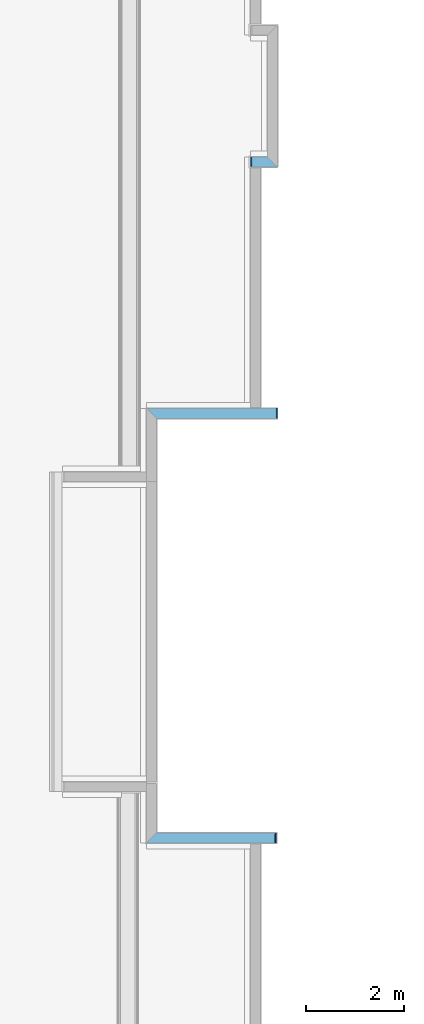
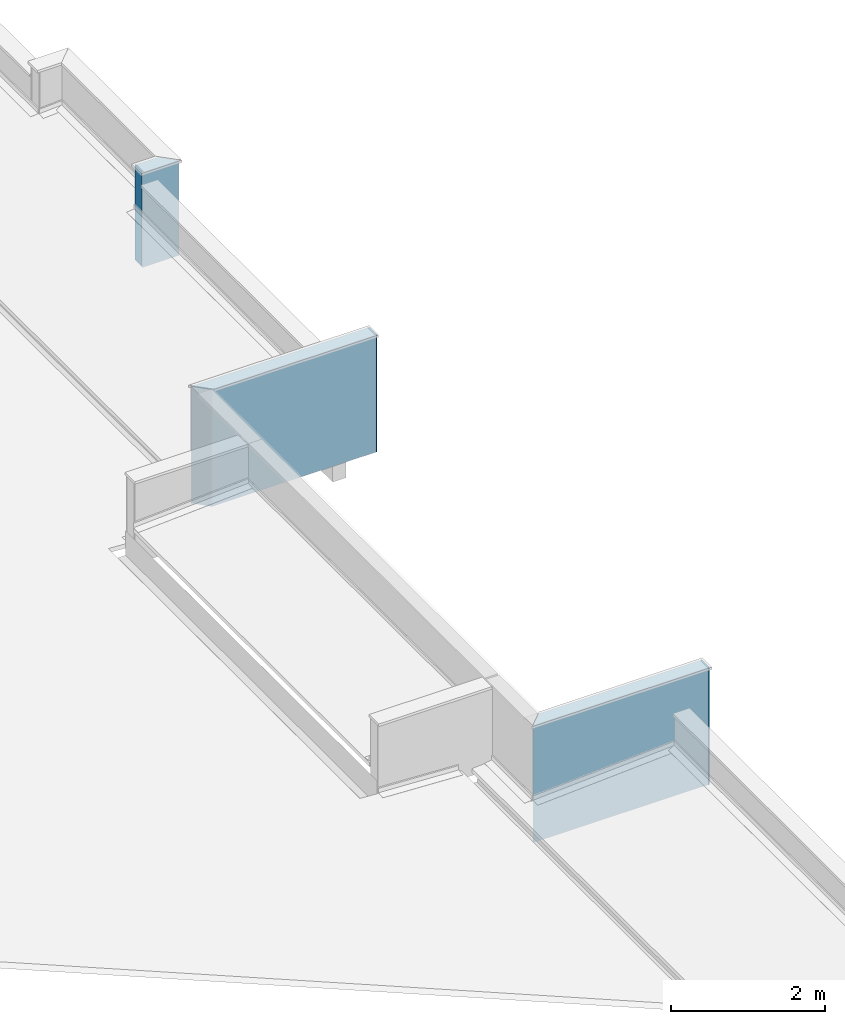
# One storey, part 18 of 25: 3 walls, 3 openings, plus 3 elements that do not belong to this part.
"""IFC4 building model written with IfcOpenShell, lengths in metres."""

import ifcopenshell
import ifcopenshell.guid

model = None  # the IFC model being written
_history = None  # IfcOwnerHistory: only IFC2X3 demands one
_inside = {}  # id of a spatial element -> (the spatial element, [elements in it])
_under = {}  # id of a project, library or spatial element -> (it, [spatial elements below it])
_declared = {}  # id of a project -> (the project, [libraries it declares])
_typed = {}  # id of a type object -> (the type object, [elements of that type])
_made_of = {}  # id of a material, layer set ... -> (it, [elements and type objects made of it])


def new_model(schema):
    """Start an empty IFC model of exactly this schema.

    Asked for "IFC4X3", IfcOpenShell would pick the latest addendum, in which some entities
    have other attributes; the version numbers below select the first issue.
    IFC2X3 requires an IfcOwnerHistory on every rooted entity: one is made here for all.
    """
    global model, _history
    if schema == "IFC4X3":
        model = ifcopenshell.file(schema_version=(4, 3, 0, 0))
    else:
        model = ifcopenshell.file(schema=schema)
    _inside.clear()
    _under.clear()
    _declared.clear()
    _typed.clear()
    _made_of.clear()
    _history = None
    if model.schema == "IFC2X3":
        org = make("IfcOrganization", Name="unknown")
        user = make(
            "IfcPersonAndOrganization",
            ThePerson=make("IfcPerson", FamilyName="unknown"),
            TheOrganization=org,
        )
        app = make(
            "IfcApplication",
            ApplicationDeveloper=org,
            Version="unknown",
            ApplicationFullName="unknown",
            ApplicationIdentifier="unknown",
        )
        _history = make(
            "IfcOwnerHistory",
            OwningUser=user,
            OwningApplication=app,
            ChangeAction="ADDED",
            CreationDate=0,
        )
    return model


def make(cls, **values):
    """One entity of the class cls with the attributes given. An attribute that is None is left unset."""
    return model.create_entity(
        cls, **{name: value for name, value in values.items() if value is not None}
    )


def entity(cls, *values):
    """Any entity or typed value of the class cls, its attributes in the order of the schema. None: left unset."""
    e = model.create_entity(cls)
    for i, value in enumerate(values):
        if value is not None:
            e[i] = value
    return e


def rooted(cls, **values):
    """An entity with a GlobalId (a new one), such as an element, a storey or a relation."""
    return make(cls, GlobalId=ifcopenshell.guid.new(), OwnerHistory=_history, **values)


def si_unit(unit_type, name, prefix=None):
    """IfcSIUnit, for example si_unit("LENGTHUNIT", "METRE", prefix="MILLI")."""
    return make("IfcSIUnit", UnitType=unit_type, Prefix=prefix, Name=name)


def converted_unit(unit_type, name, factor, base, dimensions=None, offset=None):
    """IfcConversionBasedUnit, such as the inch: factor (a typed value) times the base unit."""
    return make(
        "IfcConversionBasedUnit"
        if offset is None
        else "IfcConversionBasedUnitWithOffset",
        ConversionOffset=offset,
        Dimensions=None
        if dimensions is None
        else entity("IfcDimensionalExponents", *dimensions),
        UnitType=unit_type,
        Name=name,
        ConversionFactor=make(
            "IfcMeasureWithUnit", ValueComponent=factor, UnitComponent=base
        ),
    )


def derived_unit(unit_type, elements):
    """IfcDerivedUnit: a product of units, each with its exponent."""
    return make(
        "IfcDerivedUnit",
        Elements=[
            make("IfcDerivedUnitElement", Unit=unit, Exponent=power)
            for unit, power in elements
        ],
        UnitType=unit_type,
    )


def assignment(units):
    """IfcUnitAssignment: the units of a project."""
    return None if units is None else make("IfcUnitAssignment", Units=units)


def point(xyz):
    """IfcCartesianPoint."""
    return None if xyz is None else make("IfcCartesianPoint", Coordinates=xyz)


def direction(xyz):
    """IfcDirection."""
    return None if xyz is None else make("IfcDirection", DirectionRatios=xyz)


def frame(location, z_axis=None, x_axis=None):
    """IfcAxis2Placement3D, a coordinate frame: its origin and axes. An axis left out is left unset."""
    return make(
        "IfcAxis2Placement3D",
        Location=point(location),
        Axis=direction(z_axis),
        RefDirection=direction(x_axis),
    )


def frame_2d(location, x_axis=None):
    """IfcAxis2Placement2D, a coordinate frame in the plane: its origin and x axis."""
    return make(
        "IfcAxis2Placement2D", Location=point(location), RefDirection=direction(x_axis)
    )


def origin_with_axes():
    """The frame at (0, 0, 0) with the z axis (0, 0, 1) and the x axis (1, 0, 0) written out."""
    return frame((0.0, 0.0, 0.0), z_axis=(0.0, 0.0, 1.0), x_axis=(1.0, 0.0, 0.0))


def origin_2d_with_axis():
    """The frame at (0, 0) in the plane with the x axis (1, 0) written out."""
    return frame_2d((0.0, 0.0), x_axis=(1.0, 0.0))


def place(relative_to, where):
    """IfcLocalPlacement: puts the frame where relative to a parent placement (None: the world)."""
    return make(
        "IfcLocalPlacement", PlacementRelTo=relative_to, RelativePlacement=where
    )


def context(
    kind, dimensions, precision=None, world=None, true_north=None, identifier=None
):
    """IfcGeometricRepresentationContext, for example the 3D "Model" context."""
    return make(
        "IfcGeometricRepresentationContext",
        ContextIdentifier=identifier,
        ContextType=kind,
        CoordinateSpaceDimension=dimensions,
        Precision=precision,
        WorldCoordinateSystem=world,
        TrueNorth=true_north,
    )


def subcontext(parent, identifier, kind, view, scale=None):
    """IfcGeometricRepresentationSubContext, for example "Body" below "Model"."""
    return make(
        "IfcGeometricRepresentationSubContext",
        ContextIdentifier=identifier,
        ContextType=kind,
        ParentContext=parent,
        TargetScale=scale,
        TargetView=view,
    )


def project(units=None, contexts=None):
    """IfcProject with its units and contexts."""
    return rooted(
        "IfcProject",
        Name="project",
        RepresentationContexts=contexts,
        UnitsInContext=assignment(units),
    )


def spatial(cls, under=None, at=None, **own):
    """A site, building, storey or space (cls), placed at a placement, below another one or the project."""
    s = rooted(cls, ObjectPlacement=at, **own)
    if under is not None:
        _under.setdefault(under.id(), (under, []))[1].append(s)
    return s


def point_list(points):
    """IfcCartesianPointList2D or 3D."""
    cls = (
        "IfcCartesianPointList2D" if len(points[0]) == 2 else "IfcCartesianPointList3D"
    )
    return make(cls, CoordList=points)


def line(*indices):
    """IfcLineIndex: a straight run through numbered points of an indexed curve."""
    return model.create_entity("IfcLineIndex", indices)


def indexed_curve(points, segments=None, self_intersect=None):
    """IfcIndexedPolyCurve: lines and arcs through numbered points (the first is 1)."""
    return make(
        "IfcIndexedPolyCurve",
        Points=point_list(points),
        Segments=segments,
        SelfIntersect=self_intersect,
    )


def profile(cls, at=None, kind="AREA", **sizes):
    """A parametric profile (cls). Its sizes go by their IFC names, for example OverallWidth=200.0."""
    return make(cls, ProfileType=kind, Position=at, **sizes)


def rectangle(**sizes):
    """IfcRectangleProfileDef."""
    return profile("IfcRectangleProfileDef", **sizes)


def outline(outer, holes=None, kind="AREA"):
    """IfcArbitraryClosedProfileDef: a profile drawn as a closed curve; with holes, ...WithVoids."""
    if holes is None:
        return make("IfcArbitraryClosedProfileDef", ProfileType=kind, OuterCurve=outer)
    return make(
        "IfcArbitraryProfileDefWithVoids",
        ProfileType=kind,
        OuterCurve=outer,
        InnerCurves=holes,
    )


def extrude(swept, where, along, depth):
    """IfcExtrudedAreaSolid: the profile swept, set in the frame where, extruded along a direction by depth."""
    return make(
        "IfcExtrudedAreaSolid",
        SweptArea=swept,
        Position=where,
        ExtrudedDirection=direction(along),
        Depth=depth,
    )


def polygons(points, faces, closed=None, point_numbers=None):
    """IfcPolygonalFaceSet: a face is its outer loop, then its inner loops; points numbered from 1."""
    made = []
    for loops in faces:
        if len(loops) == 1:
            made.append(make("IfcIndexedPolygonalFace", CoordIndex=loops[0]))
        else:
            made.append(
                make(
                    "IfcIndexedPolygonalFaceWithVoids",
                    CoordIndex=loops[0],
                    InnerCoordIndices=loops[1:],
                )
            )
    return make(
        "IfcPolygonalFaceSet",
        Coordinates=point_list(points),
        Closed=closed,
        Faces=made,
        PnIndex=point_numbers,
    )


def shape(context_of_items, identifier, shape_type, items):
    """IfcShapeRepresentation: the items that make up one representation, for example the "Body"."""
    return make(
        "IfcShapeRepresentation",
        ContextOfItems=context_of_items,
        RepresentationIdentifier=identifier,
        RepresentationType=shape_type,
        Items=items,
    )


def material(Name=None, Category=None):
    """IfcMaterial."""
    return make("IfcMaterial", Name=Name, Category=Category)


def layer(
    of_material, thickness, ventilated=None, Name=None, Category=None, Priority=None
):
    """IfcMaterialLayer: one layer of a wall or slab, of a material (None: an air gap)."""
    return make(
        "IfcMaterialLayer",
        Material=of_material,
        LayerThickness=thickness,
        IsVentilated=ventilated,
        Name=Name,
        Category=Category,
        Priority=Priority,
    )


def layer_set(layers, Name=None):
    """IfcMaterialLayerSet."""
    return make("IfcMaterialLayerSet", MaterialLayers=layers, LayerSetName=Name)


def layer_usage(for_layer_set, set_direction, sense, offset, extent=None):
    """IfcMaterialLayerSetUsage: how a layer set lies in its element."""
    return make(
        "IfcMaterialLayerSetUsage",
        ForLayerSet=for_layer_set,
        LayerSetDirection=set_direction,
        DirectionSense=sense,
        OffsetFromReferenceLine=offset,
        ReferenceExtent=extent,
    )


def constituent(of_material, Name=None, Category=None, fraction=None):
    """IfcMaterialConstituent: one of the materials an element consists of."""
    return make(
        "IfcMaterialConstituent",
        Name=Name,
        Material=of_material,
        Fraction=fraction,
        Category=Category,
    )


def constituent_set(constituents=None, Name=None):
    """IfcMaterialConstituentSet."""
    return make(
        "IfcMaterialConstituentSet", Name=Name, MaterialConstituents=constituents
    )


def made_of(thing, what):
    """Note that an element or type object is made of a material, layer set ...; save() writes the relation."""
    if what is not None:
        _made_of.setdefault(what.id(), (what, []))[1].append(thing)
    return thing


def type_object(cls, material=None, **own):
    """A type object (cls), such as IfcWallType, which elements share."""
    return made_of(rooted(cls, **own), material)


def element(
    cls,
    number,
    at=None,
    inside=None,
    cuts=None,
    type_object=None,
    material=None,
    context=None,
    identifier="Body",
    shape_type=None,
    held_by="IfcProductDefinitionShape",
    body=None,
    shapes=None,
    **own,
):
    """One element of the class cls, such as IfcWall. Its Tag is "e" and its number.

    at: its placement. inside: the storey or other place that contains it. cuts: it is an
    opening in that element (IfcRelVoidsElement). A single representation is given by context,
    identifier, shape_type and body (its items); several are given by shapes. held_by: the class
    of the entity that holds the representations. save() writes the other relations.
    """
    e = rooted(cls, Tag="e%d" % number, ObjectPlacement=at, **own)
    if body is not None:
        shapes = [shape(context, identifier, shape_type, body)]
    if shapes is not None:
        e.Representation = make(held_by, Representations=shapes)
    if inside is not None:
        _inside.setdefault(inside.id(), (inside, []))[1].append(e)
    if cuts is not None:
        rooted(
            "IfcRelVoidsElement", RelatingBuildingElement=cuts, RelatedOpeningElement=e
        )
    if type_object is not None:
        _typed.setdefault(type_object.id(), (type_object, []))[1].append(e)
    return made_of(e, material)


def fill(opening, filler):
    """IfcRelFillsElement: the door or window that sits in an opening."""
    return rooted(
        "IfcRelFillsElement",
        RelatingOpeningElement=opening,
        RelatedBuildingElement=filler,
    )


def aggregate(whole, parts):
    """IfcRelAggregates: a whole, such as a stair, and the parts it consists of."""
    return rooted("IfcRelAggregates", RelatingObject=whole, RelatedObjects=parts)


def save(model, path):
    """Write the relations noted so far, then the file.

    IfcRelAggregates (storeys below a building ...), IfcRelContainedInSpatialStructure (elements
    in a storey), IfcRelDefinesByType, IfcRelAssociatesMaterial and IfcRelDeclares: one each for
    every whole, place, type object, material and project.
    """
    for whole, parts in _under.values():
        aggregate(whole, parts)
    for where, things in _inside.values():
        rooted(
            "IfcRelContainedInSpatialStructure",
            RelatedElements=things,
            RelatingStructure=where,
        )
    for kind, things in _typed.values():
        rooted("IfcRelDefinesByType", RelatedObjects=things, RelatingType=kind)
    for what, things in _made_of.values():
        rooted("IfcRelAssociatesMaterial", RelatedObjects=things, RelatingMaterial=what)
    for by, libraries in _declared.values():
        rooted("IfcRelDeclares", RelatingContext=by, RelatedDefinitions=libraries)
    model.write(path)


model = new_model("IFC4")

# Units and contexts
model_context = context("Model", 3, precision=1e-05, world=origin_with_axes(), true_north=direction((0.0, 1.0)))
body_context = subcontext(model_context, "Body", "Model", "MODEL_VIEW")
ifc_project = project(units=[si_unit("LENGTHUNIT", "METRE"), si_unit("AREAUNIT", "SQUARE_METRE"), si_unit("VOLUMEUNIT", "CUBIC_METRE"), converted_unit("PLANEANGLEUNIT", "DEGREE", entity("IfcPlaneAngleMeasure", 0.0174532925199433), si_unit("PLANEANGLEUNIT", "RADIAN"), dimensions=[0, 0, 0, 0, 0, 0, 0]), converted_unit("TIMEUNIT", "Year", entity("IfcTimeMeasure", 31557600.0), si_unit("TIMEUNIT", "SECOND"), dimensions=[0, 0, 1, 0, 0, 0, 0]), si_unit("MASSUNIT", "GRAM", prefix="KILO"), si_unit("THERMODYNAMICTEMPERATUREUNIT", "DEGREE_CELSIUS"), si_unit("LUMINOUSINTENSITYUNIT", "LUMEN"), si_unit("ENERGYUNIT", "JOULE", prefix="MEGA"), derived_unit("THERMALCONDUCTANCEUNIT", [(si_unit("POWERUNIT", "WATT"), 1), (si_unit("LENGTHUNIT", "METRE"), -1), (si_unit("THERMODYNAMICTEMPERATUREUNIT", "KELVIN"), -1)]), derived_unit("SPECIFICHEATCAPACITYUNIT", [(si_unit("ENERGYUNIT", "JOULE"), 1), (si_unit("MASSUNIT", "GRAM", prefix="KILO"), -1), (si_unit("THERMODYNAMICTEMPERATUREUNIT", "KELVIN"), -1)]), derived_unit("MASSDENSITYUNIT", [(si_unit("MASSUNIT", "GRAM", prefix="KILO"), 1), (si_unit("VOLUMEUNIT", "CUBIC_METRE"), -1)])], contexts=[model_context])

# Site, building, storey
site_placement = place(None, origin_with_axes())
site = spatial("IfcSite", under=ifc_project, at=site_placement, Name="PADRÃO", CompositionType="ELEMENT")
building_placement = place(site_placement, origin_with_axes())
building = spatial("IfcBuilding", under=site, at=building_placement, Name="CRECHE PRÉ-ESCOLA TIPO 2", CompositionType="ELEMENT")
storey_placement = place(building_placement, frame((0.0, 0.0, 3.26), z_axis=(0.0, 0.0, 1.0), x_axis=(1.0, 0.0, 0.0)))
storey = spatial("IfcBuildingStorey", under=building, at=storey_placement, Name="COBERTURA", CompositionType="ELEMENT", Elevation=3.26)

# Walls, opening
ifc_material_1 = material(Name="EI-REV-Pintura Acrílica Cor Cinza")
ifc_layer_1 = layer(ifc_material_1, 0.015, ventilated="UNKNOWN", Name="EI-REV-Pintura Acrílica Cor Cinza 1")
ifc_material_2 = material(Name="EI-REV-Massa Acrílica (externa)")
ifc_layer_2 = layer(ifc_material_2, 0.005, ventilated="UNKNOWN", Name="EI-REV-Massa Acrílica (externa) 1")
ifc_material_3 = material(Name="EI-REV-Massa única - Fachada")
ifc_layer_3 = layer(ifc_material_3, 0.005, ventilated="UNKNOWN", Name="EI-REV-Massa única - Fachada 1")
ifc_material_4 = material(Name="EI-REV-Chapisco (externo)")
ifc_layer_4 = layer(ifc_material_4, 0.005, ventilated="UNKNOWN", Name="EI-REV-Chapisco (externo) 1")
ifc_material_5 = material(Name="TIJOLO - CERAMICO 14x19x39 - espessura 20cm")
ifc_layer_5 = layer(ifc_material_5, 0.14, ventilated="UNKNOWN", Name="TIJOLO - CERAMICO 14x19x39 - espessura 20cm")
ifc_layer_6 = layer(ifc_material_4, 0.005, ventilated="UNKNOWN", Name="EI-REV-Chapisco (externo) 2")
ifc_layer_7 = layer(ifc_material_3, 0.005, ventilated="UNKNOWN", Name="EI-REV-Massa única - Fachada 2")
ifc_layer_8 = layer(ifc_material_2, 0.005, ventilated="UNKNOWN", Name="EI-REV-Massa Acrílica (externa) 2")
ifc_layer_9 = layer(ifc_material_1, 0.015, ventilated="UNKNOWN", Name="EI-REV-Pintura Acrílica Cor Cinza 2")
ifc_layer_set_1 = layer_set([ifc_layer_1, ifc_layer_2, ifc_layer_3, ifc_layer_4, ifc_layer_5, ifc_layer_6, ifc_layer_7, ifc_layer_8, ifc_layer_9], Name="FNDE-PLAT_AL14-Pintura cinza")
ifc_layer_usage_1 = layer_usage(ifc_layer_set_1, "AXIS2", "POSITIVE", -0.1)
wall_type_1 = type_object("IfcWallType", Name="FNDE-PLAT_AL14-Pintura cinza 200", PredefinedType="NOTDEFINED")
wall_1_placement = place(storey_placement, frame((-5.91504280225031, 18.1501547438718, 0.0), z_axis=(0.0, 0.0, 1.0), x_axis=(-1.0, 0.0, 0.0)))
wall_1 = element("IfcWall", 1, at=wall_1_placement, inside=storey, type_object=wall_type_1, material=ifc_layer_usage_1, Name="AL14", PredefinedType="NOTDEFINED", context=body_context, shape_type="SweptSolid", body=[
    extrude(outline(indexed_curve([(0.0, -0.100000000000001), (2.45500895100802, -0.100000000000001), (2.65500895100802, 0.0999999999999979), (0.0, 0.0999999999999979)], segments=[line(1, 2, 3, 4, 1)])), origin_with_axes(), (0.0, 0.0, 1.0), 1.86),
])
opening_1_placement = place(wall_1_placement, origin_with_axes())
opening_1 = element("IfcOpeningElement", 2, at=opening_1_placement, cuts=wall_1, Name="AL14", context=body_context, shape_type="SweptSolid", body=[
    extrude(rectangle(XDim=0.199999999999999, YDim=0.0150000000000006, at=origin_2d_with_axis()), frame((0.00750000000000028, 0.0, 0.0), z_axis=(0.0, 0.0, 1.0), x_axis=(0.0, 1.0, 0.0)), (0.0, 0.0, 1.0), 1.86),
    extrude(rectangle(XDim=0.184999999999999, YDim=0.00500000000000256, at=origin_2d_with_axis()), frame((0.0174999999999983, 0.00749999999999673, 0.0), z_axis=(0.0, 0.0, 1.0), x_axis=(0.0, 1.0, 0.0)), (0.0, 0.0, 1.0), 1.86),
    extrude(rectangle(XDim=0.18, YDim=0.00499999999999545, at=origin_2d_with_axis()), frame((0.0225000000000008, 0.00999999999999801, 0.0), z_axis=(0.0, 0.0, 1.0), x_axis=(0.0, 1.0, 0.0)), (0.0, 0.0, 1.0), 1.86),
])
ifc_constituent_1 = constituent(ifc_material_1, Name="EI-REV-Pintura Acrílica Cor Cinza")
ifc_constituent_2 = constituent(ifc_material_2, Name="EI-REV-Massa Acrílica (externa)")
ifc_constituent_3 = constituent(ifc_material_3, Name="EI-REV-Massa única - Fachada")
ifc_constituent_set_1 = constituent_set(constituents=[ifc_constituent_1, ifc_constituent_2, ifc_constituent_3])
wall_type_2 = type_object("IfcWallType", Name="Arremate com Dobra Revest 27", PredefinedType="NOTDEFINED")
wall_2_placement = place(opening_1_placement, frame((-0.0125000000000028, 0.0, 0.0), z_axis=(0.0, 0.0, 1.0), x_axis=(1.0, 0.0, 0.0)))
wall_2 = element("IfcWall", 3, at=wall_2_placement, inside=storey, type_object=wall_type_2, material=ifc_constituent_set_1, Name="AL14", PredefinedType="NOTDEFINED", context=body_context, shape_type="Tessellation", body=[
    polygons([(0.0125000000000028, -0.100000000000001, 0.0), (0.0275000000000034, -0.100000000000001, 0.0), (0.0275000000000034, -0.100000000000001, 1.86), (0.0125000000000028, -0.100000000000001, 1.86), (0.0125000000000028, 0.0999999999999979, 0.0), (0.0275000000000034, 0.0999999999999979, 0.0), (0.0275000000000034, 0.0999999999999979, 1.86), (0.0125000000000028, 0.0999999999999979, 1.86)], [[[1, 2, 3, 4]], [[5, 6, 2, 1]], [[6, 7, 3, 2]], [[7, 8, 4, 3]], [[8, 5, 1, 4]], [[5, 8, 7, 6]]], closed=True),
    polygons([(0.0275000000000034, -0.0850000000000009, 0.0), (0.032500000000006, -0.0850000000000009, 0.0), (0.032500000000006, -0.0850000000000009, 1.86), (0.0275000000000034, -0.0850000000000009, 1.86), (0.0275000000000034, 0.0999999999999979, 0.0), (0.032500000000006, 0.0999999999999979, 0.0), (0.032500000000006, 0.0999999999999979, 1.86), (0.0275000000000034, 0.0999999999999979, 1.86)], [[[1, 2, 3, 4]], [[5, 6, 2, 1]], [[6, 7, 3, 2]], [[7, 8, 4, 3]], [[8, 5, 1, 4]], [[5, 8, 7, 6]]], closed=True),
    polygons([(0.032500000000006, -0.0800000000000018, 0.0), (0.0375000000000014, -0.0800000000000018, 0.0), (0.0375000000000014, -0.0800000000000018, 1.86), (0.032500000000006, -0.0800000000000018, 1.86), (0.032500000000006, 0.0999999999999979, 0.0), (0.0375000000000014, 0.0999999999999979, 0.0), (0.0375000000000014, 0.0999999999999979, 1.86), (0.032500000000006, 0.0999999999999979, 1.86)], [[[1, 2, 3, 4]], [[5, 6, 2, 1]], [[6, 7, 3, 2]], [[7, 8, 4, 3]], [[8, 5, 1, 4]], [[5, 8, 7, 6]]], closed=True),
])
fill(opening_1, wall_2)

ifc_layer_usage_2 = layer_usage(ifc_layer_set_1, "AXIS2", "POSITIVE", -0.1)
wall_3_placement = place(storey_placement, frame((-5.89001783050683, 26.8501567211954, 0.0), z_axis=(0.0, 0.0, 1.0), x_axis=(-1.0, 0.0, 0.0)))
wall_3 = element("IfcWall", 4, at=wall_3_placement, inside=storey, type_object=wall_type_1, material=ifc_layer_usage_2, Name="AL14", PredefinedType="NOTDEFINED", context=body_context, shape_type="SweptSolid", body=[
    extrude(outline(indexed_curve([(0.0, -0.100000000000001), (2.6800339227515, -0.100000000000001), (2.48003392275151, 0.0999999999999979), (0.0, 0.0999999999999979)], segments=[line(1, 2, 3, 4, 1)])), origin_with_axes(), (0.0, 0.0, 1.0), 1.86),
])
opening_2_placement = place(wall_3_placement, origin_with_axes())
opening_2 = element("IfcOpeningElement", 5, at=opening_2_placement, cuts=wall_3, Name="AL14", context=body_context, shape_type="SweptSolid", body=[
    extrude(rectangle(XDim=0.199999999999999, YDim=0.0150000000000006, at=origin_2d_with_axis()), frame((0.00750000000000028, 0.0, 0.0), z_axis=(0.0, 0.0, 1.0), x_axis=(0.0, 1.0, 0.0)), (0.0, 0.0, 1.0), 1.86),
    extrude(rectangle(XDim=0.184999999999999, YDim=0.00500000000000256, at=origin_2d_with_axis()), frame((0.0175000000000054, -0.00750000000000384, 0.0), z_axis=(0.0, 0.0, 1.0), x_axis=(0.0, 1.0, 0.0)), (0.0, 0.0, 1.0), 1.86),
    extrude(rectangle(XDim=0.18, YDim=0.00499999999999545, at=origin_2d_with_axis()), frame((0.0225000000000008, -0.0100000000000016, 0.0), z_axis=(0.0, 0.0, 1.0), x_axis=(0.0, 1.0, 0.0)), (0.0, 0.0, 1.0), 1.86),
])
ifc_constituent_4 = constituent(ifc_material_1, Name="EI-REV-Pintura Acrílica Cor Cinza")
ifc_constituent_5 = constituent(ifc_material_2, Name="EI-REV-Massa Acrílica (externa)")
ifc_constituent_6 = constituent(ifc_material_3, Name="EI-REV-Massa única - Fachada")
ifc_constituent_set_2 = constituent_set(constituents=[ifc_constituent_4, ifc_constituent_5, ifc_constituent_6])
wall_4_placement = place(opening_2_placement, frame((-0.0125000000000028, 0.0, 0.0), z_axis=(0.0, 0.0, 1.0), x_axis=(1.0, 0.0, 0.0)))
wall_4 = element("IfcWall", 6, at=wall_4_placement, inside=storey, type_object=wall_type_2, material=ifc_constituent_set_2, Name="AL14", PredefinedType="NOTDEFINED", context=body_context, shape_type="Tessellation", body=[
    polygons([(0.0125000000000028, -0.100000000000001, 0.0), (0.0275000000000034, -0.100000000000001, 0.0), (0.0275000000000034, -0.100000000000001, 1.86), (0.0125000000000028, -0.100000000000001, 1.86), (0.0125000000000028, 0.0999999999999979, 0.0), (0.0275000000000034, 0.0999999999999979, 0.0), (0.0275000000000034, 0.0999999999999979, 1.86), (0.0125000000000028, 0.0999999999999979, 1.86)], [[[1, 2, 3, 4]], [[5, 6, 2, 1]], [[6, 7, 3, 2]], [[7, 8, 4, 3]], [[8, 5, 1, 4]], [[5, 8, 7, 6]]], closed=True),
    polygons([(0.0275000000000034, -0.100000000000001, 0.0), (0.032500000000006, -0.100000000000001, 0.0), (0.032500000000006, -0.100000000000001, 1.86), (0.0275000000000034, -0.100000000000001, 1.86), (0.0275000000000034, 0.0849999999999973, 0.0), (0.032500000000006, 0.0849999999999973, 0.0), (0.032500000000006, 0.0849999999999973, 1.86), (0.0275000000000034, 0.0849999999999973, 1.86)], [[[1, 2, 3, 4]], [[5, 6, 2, 1]], [[6, 7, 3, 2]], [[7, 8, 4, 3]], [[8, 5, 1, 4]], [[5, 8, 7, 6]]], closed=True),
    polygons([(0.032500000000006, -0.100000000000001, 0.0), (0.0375000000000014, -0.100000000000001, 0.0), (0.0375000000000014, -0.100000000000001, 1.86), (0.032500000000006, -0.100000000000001, 1.86), (0.032500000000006, 0.0799999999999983, 0.0), (0.0375000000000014, 0.0799999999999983, 0.0), (0.0375000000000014, 0.0799999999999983, 1.86), (0.032500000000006, 0.0799999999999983, 1.86)], [[[1, 2, 3, 4]], [[5, 6, 2, 1]], [[6, 7, 3, 2]], [[7, 8, 4, 3]], [[8, 5, 1, 4]], [[5, 8, 7, 6]]], closed=True),
])
fill(opening_2, wall_4)

ifc_material_6 = material(Name="EI-REV-Pintura Acrílica Cor Azul Externa")
ifc_layer_10 = layer(ifc_material_6, 0.015, ventilated="UNKNOWN", Name="EI-REV-Pintura Acrílica Cor Azul Externa")
ifc_layer_11 = layer(ifc_material_2, 0.005, ventilated="UNKNOWN", Name="EI-REV-Massa Acrílica (externa) 1")
ifc_layer_12 = layer(ifc_material_3, 0.005, ventilated="UNKNOWN", Name="EI-REV-Massa única - Fachada 1")
ifc_layer_13 = layer(ifc_material_4, 0.005, ventilated="UNKNOWN", Name="EI-REV-Chapisco (externo) 1")
ifc_layer_14 = layer(ifc_material_5, 0.14, ventilated="UNKNOWN", Name="TIJOLO - CERAMICO 14x19x39 - espessura 20cm")
ifc_layer_15 = layer(ifc_material_4, 0.005, ventilated="UNKNOWN", Name="EI-REV-Chapisco (externo) 2")
ifc_layer_16 = layer(ifc_material_3, 0.005, ventilated="UNKNOWN", Name="EI-REV-Massa única - Fachada 2")
ifc_layer_17 = layer(ifc_material_2, 0.005, ventilated="UNKNOWN", Name="EI-REV-Massa Acrílica (externa) 2")
ifc_material_7 = material(Name="EI-REV-Pintura Acrílica Cor Branco Gelo")
ifc_layer_18 = layer(ifc_material_7, 0.015, ventilated="UNKNOWN", Name="EI-REV-Pintura Acrílica Cor Branco Gelo")
ifc_layer_set_2 = layer_set([ifc_layer_10, ifc_layer_11, ifc_layer_12, ifc_layer_13, ifc_layer_14, ifc_layer_15, ifc_layer_16, ifc_layer_17, ifc_layer_18], Name="FNDE-PLAT_AL14-Pintura Azul - Branca")
ifc_layer_usage_3 = layer_usage(ifc_layer_set_2, "AXIS2", "NEGATIVE", 0.1)
wall_type_3 = type_object("IfcWallType", Name="FNDE-PLAT_AL14-Pintura Azul - Branca 200", PredefinedType="NOTDEFINED")
wall_5_placement = place(storey_placement, frame((-5.99017858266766, 32.000127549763, 0.0), z_axis=(0.0, 0.0, 1.0), x_axis=(-1.0, 0.0, 0.0)))
wall_5 = element("IfcWall", 7, at=wall_5_placement, inside=storey, type_object=wall_type_3, material=ifc_layer_usage_3, Name="AL14", PredefinedType="NOTDEFINED", context=body_context, shape_type="SweptSolid", body=[
    extrude(outline(indexed_curve([(0.100000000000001, -0.100000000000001), (0.450000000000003, -0.100000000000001), (0.450000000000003, 0.0999999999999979), (-0.100000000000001, 0.0999999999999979)], segments=[line(1, 2, 3, 4, 1)])), origin_with_axes(), (0.0, 0.0, 1.0), 1.51),
])
opening_3_placement = place(wall_5_placement, frame((0.450000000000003, 0.0, 0.0), z_axis=(0.0, 0.0, 1.0), x_axis=(1.0, 0.0, 0.0)))
opening_3 = element("IfcOpeningElement", 8, at=opening_3_placement, cuts=wall_5, Name="AL14", ObjectType="Recess", context=body_context, shape_type="SweptSolid", body=[
    extrude(rectangle(XDim=0.184999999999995, YDim=0.0150000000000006, at=origin_2d_with_axis()), frame((-0.00750000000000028, -0.00750000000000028, 0.0), z_axis=(0.0, 0.0, 1.0), x_axis=(0.0, -1.0, 0.0)), (0.0, 0.0, 1.0), 1.51),
    extrude(rectangle(XDim=0.169999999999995, YDim=0.00500000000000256, at=origin_2d_with_axis()), frame((-0.0175000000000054, 0.0, 0.0), z_axis=(0.0, 0.0, 1.0), x_axis=(0.0, -1.0, 0.0)), (0.0, 0.0, 1.0), 1.51),
    extrude(rectangle(XDim=0.164999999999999, YDim=0.00499999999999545, at=origin_2d_with_axis()), frame((-0.0225000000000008, 0.00249999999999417, 0.0), z_axis=(0.0, 0.0, 1.0), x_axis=(0.0, -1.0, 0.0)), (0.0, 0.0, 1.0), 1.51),
])
ifc_constituent_7 = constituent(ifc_material_7, Name="EI-REV-Pintura Acrílica Cor Branco Gelo")
ifc_constituent_8 = constituent(ifc_material_2, Name="EI-REV-Massa Acrílica (externa)")
ifc_constituent_9 = constituent(ifc_material_3, Name="EI-REV-Massa única - Fachada")
ifc_constituent_set_3 = constituent_set(constituents=[ifc_constituent_7, ifc_constituent_8, ifc_constituent_9])
wall_6_placement = place(opening_3_placement, frame((-0.0125000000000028, 0.0, 0.0), z_axis=(0.0, 0.0, 1.0), x_axis=(1.0, 0.0, 0.0)))
wall_6 = element("IfcWall", 9, at=wall_6_placement, inside=storey, type_object=wall_type_2, material=ifc_constituent_set_3, Name="AL14", PredefinedType="NOTDEFINED", context=body_context, shape_type="Tessellation", body=[
    polygons([(0.0125000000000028, 0.0849999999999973, 0.0), (-0.00249999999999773, 0.0849999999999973, 0.0), (-0.00249999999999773, 0.0849999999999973, 1.51), (0.0125000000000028, 0.0849999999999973, 1.51), (0.0125000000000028, -0.100000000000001, 0.0), (-0.00249999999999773, -0.100000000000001, 0.0), (-0.00249999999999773, -0.100000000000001, 1.51), (0.0125000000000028, -0.100000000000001, 1.51)], [[[1, 2, 3, 4]], [[5, 6, 2, 1]], [[6, 7, 3, 2]], [[7, 8, 4, 3]], [[8, 5, 1, 4]], [[5, 8, 7, 6]]], closed=True),
    polygons([(-0.00249999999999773, 0.0849999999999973, 0.0), (-0.00750000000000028, 0.0849999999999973, 0.0), (-0.00750000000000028, 0.0849999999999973, 1.51), (-0.00249999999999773, 0.0849999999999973, 1.51), (-0.00249999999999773, -0.0850000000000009, 0.0), (-0.00750000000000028, -0.0850000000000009, 0.0), (-0.00750000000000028, -0.0850000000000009, 1.51), (-0.00249999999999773, -0.0850000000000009, 1.51)], [[[1, 2, 3, 4]], [[5, 6, 2, 1]], [[6, 7, 3, 2]], [[7, 8, 4, 3]], [[8, 5, 1, 4]], [[5, 8, 7, 6]]], closed=True),
    polygons([(-0.00750000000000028, 0.0849999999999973, 0.0), (-0.0124999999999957, 0.0849999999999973, 0.0), (-0.0124999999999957, 0.0849999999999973, 1.51), (-0.00750000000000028, 0.0849999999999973, 1.51), (-0.00750000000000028, -0.0800000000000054, 0.0), (-0.0124999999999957, -0.0800000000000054, 0.0), (-0.0124999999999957, -0.0800000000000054, 1.51), (-0.00750000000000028, -0.0800000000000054, 1.51)], [[[1, 2, 3, 4]], [[5, 6, 2, 1]], [[6, 7, 3, 2]], [[7, 8, 4, 3]], [[8, 5, 1, 4]], [[5, 8, 7, 6]]], closed=True),
])
fill(opening_3, wall_6)

save(model, "model.ifc")
